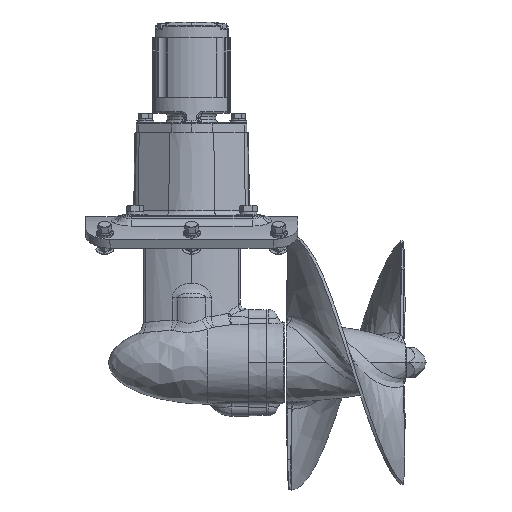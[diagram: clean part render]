
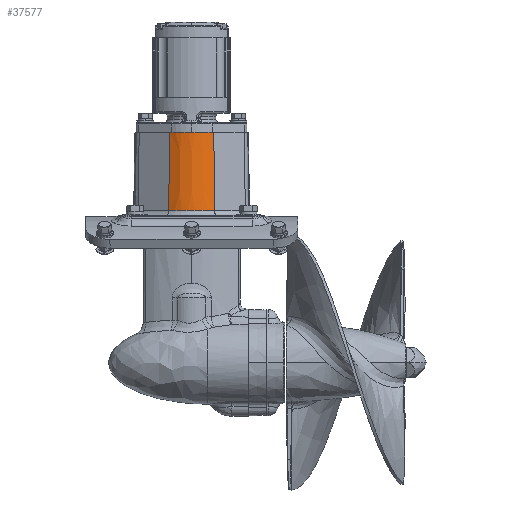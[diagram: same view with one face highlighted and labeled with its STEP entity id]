
A CAD part, top view. The second image highlights one B-rep face of the part: STEP entity #37577.
In plain terms, the highlighted conical face has half-angle 1 degrees and reference radius 63.5 mm.
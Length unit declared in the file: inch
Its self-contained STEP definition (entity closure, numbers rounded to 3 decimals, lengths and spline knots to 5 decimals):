
#1964 = DIRECTION ( 'NONE',  ( -0.01, -1., 0.015 ) ) ;
#2696 = CARTESIAN_POINT ( 'NONE',  ( -9.54927, 9.40205, 0. ) ) ;
#3496 = VECTOR ( 'NONE', #21416, 39.37008 ) ;
#5108 = VERTEX_POINT ( 'NONE', #26841 ) ;
#6036 = DIRECTION ( 'NONE',  ( 1., 0., 0. ) ) ;
#6236 = CARTESIAN_POINT ( 'NONE',  ( -8.17996, 14.345, 2.09165 ) ) ;
#6944 = DIRECTION ( 'NONE',  ( -1., 0., 0. ) ) ;
#9998 = AXIS2_PLACEMENT_3D ( 'NONE', #24959, #40145, #6036 ) ;
#10067 = CIRCLE ( 'NONE', #9998, 2.50166 ) ;
#10692 = FACE_OUTER_BOUND ( 'NONE', #24594, .T. ) ;
#17656 = AXIS2_PLACEMENT_3D ( 'NONE', #25860, #41050, #6944 ) ;
#17685 = CONICAL_SURFACE ( 'NONE', #17656, 2.5, 0.017 ) ;
#17898 = DIRECTION ( 'NONE',  ( 0., 1., 0. ) ) ;
#19254 = AXIS2_PLACEMENT_3D ( 'NONE', #2696, #17898, #33067 ) ;
#20873 = LINE ( 'NONE', #36043, #42388 ) ;
#21416 = DIRECTION ( 'NONE',  ( 0.01, -1., 0.015 ) ) ;
#21551 = CIRCLE ( 'NONE', #19254, 2.58628 ) ;
#22801 = VERTEX_POINT ( 'NONE', #45945 ) ;
#23836 = ORIENTED_EDGE ( 'NONE', *, *, #33547, .T. ) ;
#24266 = VERTEX_POINT ( 'NONE', #25469 ) ;
#24594 = EDGE_LOOP ( 'NONE', ( #23836, #39933, #37796, #45971 ) ) ;
#24959 = CARTESIAN_POINT ( 'NONE',  ( -9.54927, 14.25, 0. ) ) ;
#25469 = CARTESIAN_POINT ( 'NONE',  ( -8.17905, 14.25, 2.09303 ) ) ;
#25860 = CARTESIAN_POINT ( 'NONE',  ( -9.54927, 14.345, 0. ) ) ;
#26449 = VERTEX_POINT ( 'NONE', #31906 ) ;
#26841 = CARTESIAN_POINT ( 'NONE',  ( -8.1327, 9.40205, 2.16383 ) ) ;
#31906 = CARTESIAN_POINT ( 'NONE',  ( -10.96584, 9.40205, 2.16383 ) ) ;
#33067 = DIRECTION ( 'NONE',  ( 1., 0., 0. ) ) ;
#33547 = EDGE_CURVE ( 'Defeatured_2813+Defeatured_2869+Defeatured_2814+Defeatured_2812', #24266, #22801, #10067, .T. ) ;
#33977 = EDGE_CURVE ( 'Defeatured_2814+Defeatured_2813+Defeatured_2869+Defeatured_2830', #24266, #5108, #40341, .T. ) ;
#35171 = EDGE_CURVE ( 'Defeatured_2813+Defeatured_2812+Defeatured_2869+Defeatured_2828', #22801, #26449, #20873, .T. ) ;
#36043 = CARTESIAN_POINT ( 'NONE',  ( -10.91858, 14.345, 2.09165 ) ) ;
#37527 = EDGE_CURVE ( 'Defeatured_2813+Defeatured_2828+Defeatured_2812+Defeatured_2814', #26449, #5108, #21551, .T. ) ;
#37577 = ADVANCED_FACE ( 'Defeatured_2813', ( #10692 ), #17685, .T. ) ;
#37796 = ORIENTED_EDGE ( 'NONE', *, *, #37527, .T. ) ;
#39933 = ORIENTED_EDGE ( 'NONE', *, *, #35171, .T. ) ;
#40145 = DIRECTION ( 'NONE',  ( 0., -1., 0. ) ) ;
#40341 = LINE ( 'NONE', #6236, #3496 ) ;
#41050 = DIRECTION ( 'NONE',  ( 0., -1., 0. ) ) ;
#42388 = VECTOR ( 'NONE', #1964, 39.37008 ) ;
#45945 = CARTESIAN_POINT ( 'NONE',  ( -10.91949, 14.25, 2.09303 ) ) ;
#45971 = ORIENTED_EDGE ( 'NONE', *, *, #33977, .F. ) ;
